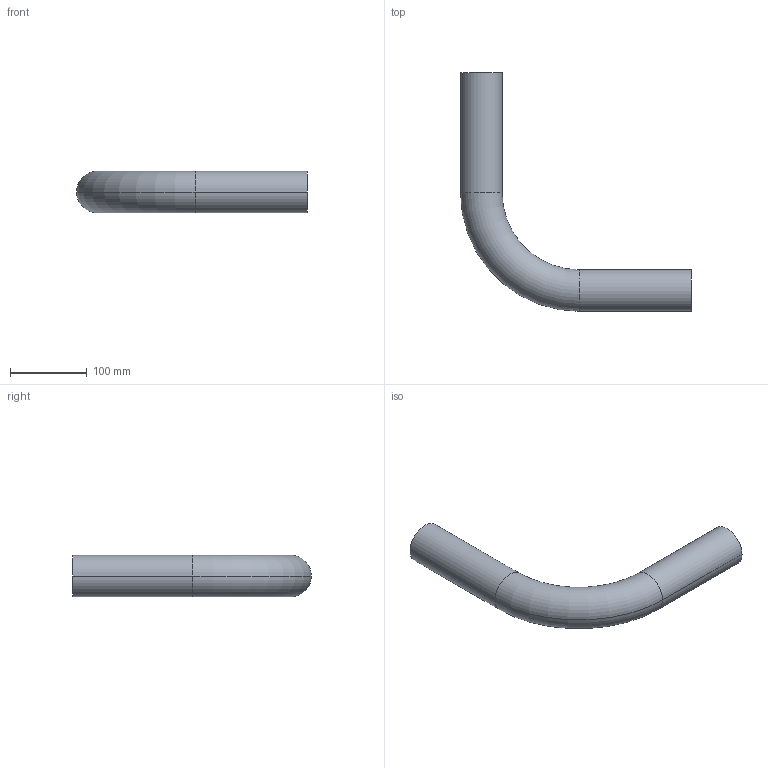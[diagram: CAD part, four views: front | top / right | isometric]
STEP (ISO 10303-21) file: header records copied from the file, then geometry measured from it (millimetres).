
FILE_DESCRIPTION (( 'STEP AP203' ), '1' );
FILE_NAME ('KP_3-54F.step', '2011-08-08T11:39:59', ( '' ), ( '' ), 'SwSTEP 2.0', 'SolidWorks 2011', '' );
FILE_SCHEMA (( 'CONFIG_CONTROL_DESIGN' ));
Length unit declared in the file: millimetre
Products named in the file (1): KP_3-54F
Bounding box: 300 x 310 x 54 mm (x, y, z)
Volume: 486429.7 mm3; surface area: 151610.6 mm2
Topology: 1 solids, 1 shells, 14 faces, 28 edges, 16 vertices
Faces by surface type: cylinder 8, torus 4, plane 2
Entity records: 449 total; most frequent: DIRECTION 78, CARTESIAN_POINT 59, ORIENTED_EDGE 56, AXIS2_PLACEMENT_3D 35, EDGE_CURVE 28, CIRCLE 20, VERTEX_POINT 16, EDGE_LOOP 16
